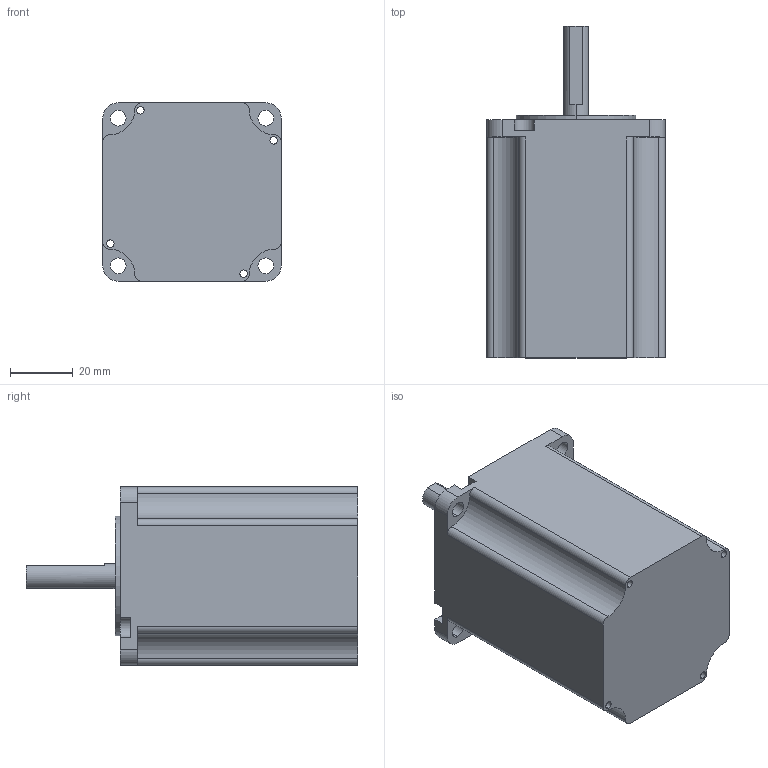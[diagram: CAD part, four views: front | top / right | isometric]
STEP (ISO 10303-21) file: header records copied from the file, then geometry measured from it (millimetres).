
FILE_DESCRIPTION (( 'STEP AP214' ), '1' );
FILE_NAME ('57AM23-30£¨57HT76-D0830-003£©.STEP', '2020-11-04T07:48:40', ( 'wimxt.com' ), ( 'wimxt.com' ), 'SwSTEP 2.0', 'SolidWorks 2014', '' );
FILE_SCHEMA (( 'AUTOMOTIVE_DESIGN' ));
Length unit declared in the file: millimetre
Products named in the file (1): 57AM23-30（57HT76-D0830-003）
Bounding box: 57 x 106 x 57 mm (x, y, z)
Volume: 220615 mm3; surface area: 25916.3 mm2
Topology: 1 solids, 1 shells, 73 faces, 201 edges, 134 vertices
Faces by surface type: cylinder 45, plane 28
Entity records: 2433 total; most frequent: DIRECTION 441, CARTESIAN_POINT 409, ORIENTED_EDGE 402, EDGE_CURVE 201, AXIS2_PLACEMENT_3D 166, VERTEX_POINT 134, LINE 109, VECTOR 109
